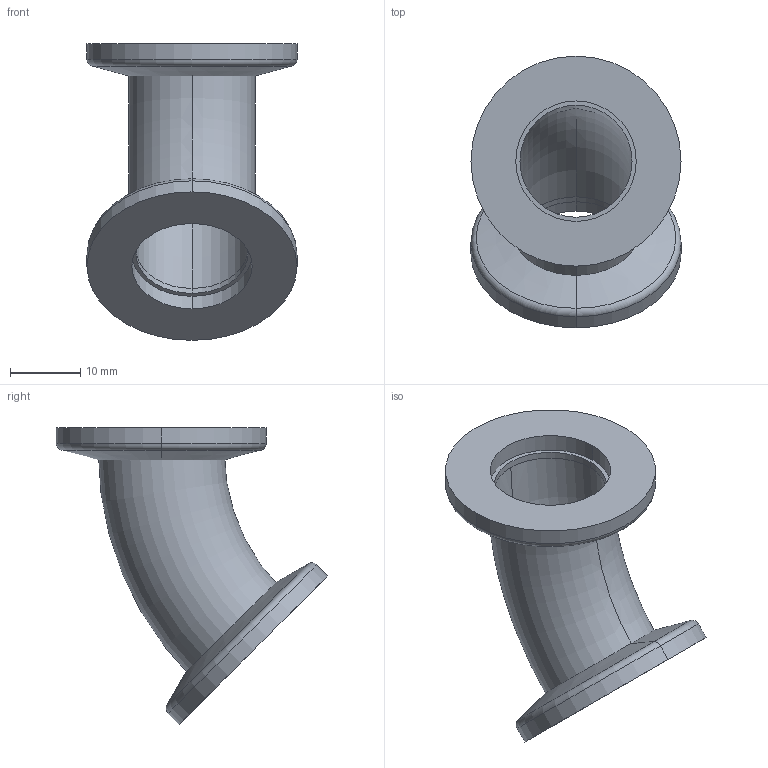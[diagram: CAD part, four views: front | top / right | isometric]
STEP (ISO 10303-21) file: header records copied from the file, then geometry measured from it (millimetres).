
FILE_DESCRIPTION (( 'STEP AP214' ), '1' );
FILE_NAME ('W3RB16-45.STEP', '2020-01-21T09:59:24', ( '' ), ( '' ), 'SwSTEP 2.0', 'SolidWorks 2018', '' );
FILE_SCHEMA (( 'AUTOMOTIVE_DESIGN' ));
Length unit declared in the file: millimetre
Products named in the file (1): W3RB16-45
Bounding box: 30 x 38.77 x 42.39 mm (x, y, z)
Volume: 5108.1 mm3; surface area: 6242.8 mm2
Topology: 3 solids, 3 shells, 36 faces, 72 edges, 44 vertices
Faces by surface type: cylinder 14, torus 8, plane 8, cone 6
Entity records: 1016 total; most frequent: DIRECTION 198, CARTESIAN_POINT 153, ORIENTED_EDGE 144, AXIS2_PLACEMENT_3D 89, EDGE_CURVE 72, CIRCLE 52, VERTEX_POINT 44, EDGE_LOOP 44
